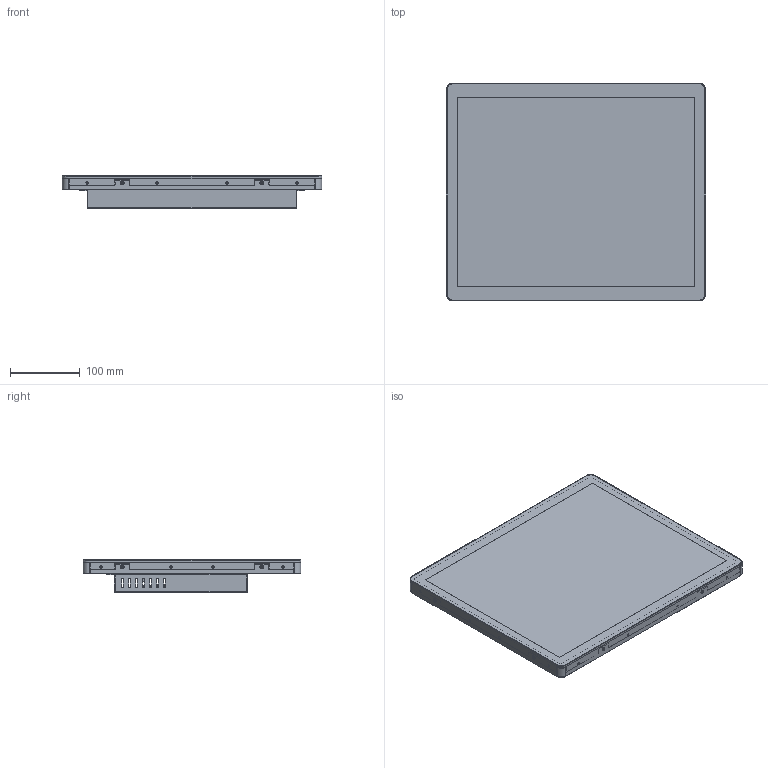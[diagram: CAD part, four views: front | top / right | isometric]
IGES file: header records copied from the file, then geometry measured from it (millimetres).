
Global section: file name: FIE170FM-P-3D; native system: AutoCAD 2019 – 繁體中文 (Traditional Chinese),62HAutode; preprocessor: sk Translation Framework DWG producer (atf_dwg_producer); organization: unknown; date: 20210616.172646; units: millimetre
Bounding box: 370.79 x 311.2 x 46 mm (x, y, z)
Volume: 530940.1 mm3; surface area: 800578.4 mm2
Topology: 12 solids, 12 shells, 1242 faces, 3320 edges, 2240 vertices
Faces by surface type: bspline 1242
